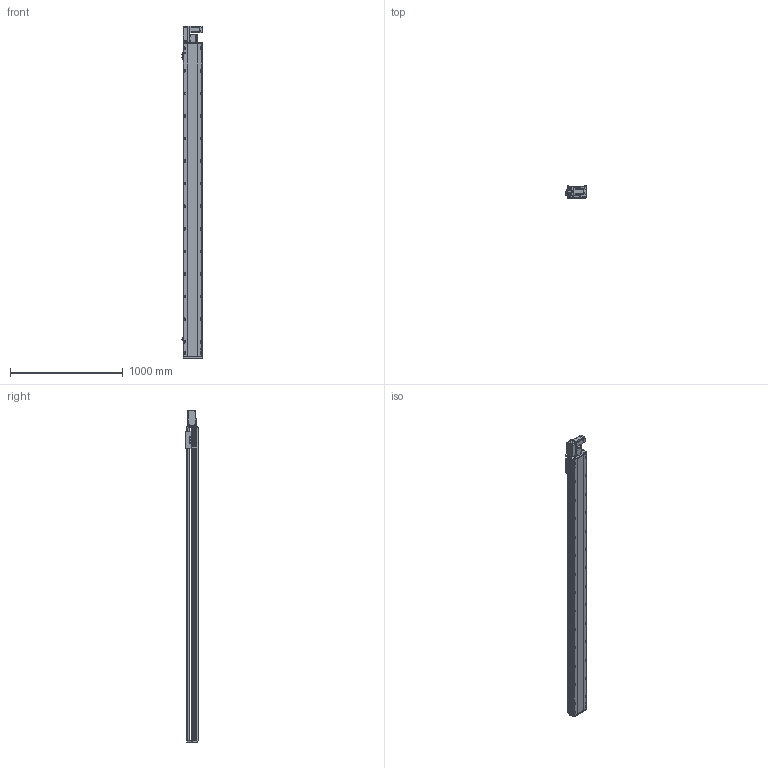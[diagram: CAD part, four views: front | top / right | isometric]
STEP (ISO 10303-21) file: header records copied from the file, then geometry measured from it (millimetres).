
FILE_DESCRIPTION (( 'STEP AP214' ), '1' );
FILE_NAME ('RTB17S-XX-2500-L-M40-C4.STEP', '2025-12-11T05:55:28', ( '' ), ( '' ), 'SwSTEP 2.0', 'SolidWorks 2018', '' );
FILE_SCHEMA (( 'AUTOMOTIVE_DESIGN' ));
Length unit declared in the file: millimetre
Products named in the file (14): RTB17S-L-004丝杆螺母连接座^RTB17S-XX-XX-L-M40-C4（方程式）; RTB17S-L-001侧面板^RTB17S-XX-XX-L-M40-C4（方程式）; RTB17-R-011底座^RTB17S-XX-XX-L-M40-C4（方程式）; RTB14-L-018P^RTB17S-L-皮带座装配-400W_RTB17S-XX-XX-L-M40-C4（方程式）; RTB14-L-008-M20--电机板^RTB17S-L-皮带座装配-400W_RTB17S-XX-XX-L-M40-C4（方程式）; RMP17S-L-014-T20--皮带座^RTB17S-L-皮带座装配-400W_RTB17S-XX-XX-L-M40-C4（方程式）; RTB14-L-017P^RTB17S-L-皮带座装配-400W_RTB17S-XX-XX-L-M40-C4（方程式）; RTB14-L-005P--轴承塑胶压盖^RTB17S-L-皮带座装配-400W_RTB17S-XX-XX-L-M40-C4（方程式）; RTB17S-XX-2500-L-M40-C4; RTB17S-L-007上盖^RTB17S-XX-XX-L-M40-C4（方程式）; RTB17S-L-皮带座装配-400W^RTB17S-XX-XX-L-M40-C4（方程式）; RTH13-BL-012感应片外置^RTB17S-XX-XX-L-M40-C4（方程式）; OMRON EE-SX672 传感器^RTB17S-XX-XX-L-M40-C4（方程式）; 400W伺服电机^RTB17S-XX-XX-L-M40-C4（方程式）
Assembly tree (16 placements, depth 3):
  RTB17S-XX-2500-L-M40-C4
    RTB17-R-011底座^RTB17S-XX-XX-L-M40-C4（方程式）
    RTB17S-L-007上盖^RTB17S-XX-XX-L-M40-C4（方程式）
    OMRON EE-SX672 传感器^RTB17S-XX-XX-L-M40-C4（方程式）  x3
    RTB17S-L-001侧面板^RTB17S-XX-XX-L-M40-C4（方程式）
    400W伺服电机^RTB17S-XX-XX-L-M40-C4（方程式）
    RTB17S-L-004丝杆螺母连接座^RTB17S-XX-XX-L-M40-C4（方程式）
    RTH13-BL-012感应片外置^RTB17S-XX-XX-L-M40-C4（方程式）
    RTB17S-L-皮带座装配-400W^RTB17S-XX-XX-L-M40-C4（方程式）
      RMP17S-L-014-T20--皮带座^RTB17S-L-皮带座装配-400W_RTB17S-XX-XX-L-M40-C4（方程式）
      RTB14-L-005P--轴承塑胶压盖^RTB17S-L-皮带座装配-400W_RTB17S-XX-XX-L-M40-C4（方程式）
      RTB14-L-008-M20--电机板^RTB17S-L-皮带座装配-400W_RTB17S-XX-XX-L-M40-C4（方程式）
      RTB14-L-017P^RTB17S-L-皮带座装配-400W_RTB17S-XX-XX-L-M40-C4（方程式）  x2
      RTB14-L-018P^RTB17S-L-皮带座装配-400W_RTB17S-XX-XX-L-M40-C4（方程式）
Bounding box: 186 x 108 x 2941 mm (x, y, z)
Volume: 24604101.7 mm3; surface area: 2832901.2 mm2
Topology: 15 solids, 15 shells, 2333 faces, 6519 edges, 4257 vertices
Faces by surface type: plane 1084, cylinder 801, bspline 301, cone 139, torus 8
Entity records: 68777 total; most frequent: CARTESIAN_POINT 19524, ORIENTED_EDGE 9882, DIRECTION 9116, EDGE_CURVE 4941, VERTEX_POINT 3245, AXIS2_PLACEMENT_3D 3175, VECTOR 2766, LINE 2766
